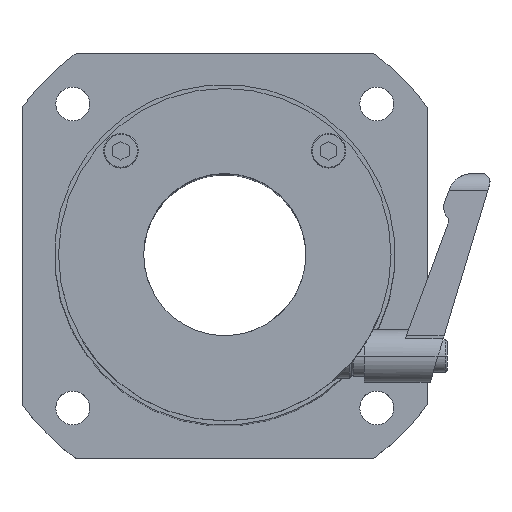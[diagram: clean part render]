
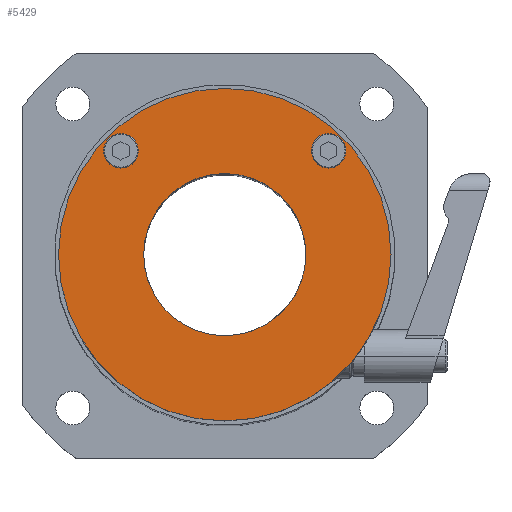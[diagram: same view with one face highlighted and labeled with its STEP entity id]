
A CAD part, top view. The second image highlights one B-rep face of the part: STEP entity #5429.
In plain terms, the highlighted planar face has unit normal (0, 0, 1).
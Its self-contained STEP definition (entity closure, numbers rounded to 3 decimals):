
#138 = EDGE_LOOP ( 'NONE', ( #7395, #1515 ) ) ;
#163 = DIRECTION ( 'NONE',  ( 0., 0., 1. ) ) ;
#179 = ORIENTED_EDGE ( 'NONE', *, *, #4579, .F. ) ;
#197 = DIRECTION ( 'NONE',  ( 0., 0., 1. ) ) ;
#212 = VERTEX_POINT ( 'NONE', #3309 ) ;
#280 = FACE_BOUND ( 'NONE', #6576, .T. ) ;
#342 = CARTESIAN_POINT ( 'NONE',  ( -25.378, 22.549, 92. ) ) ;
#525 = ORIENTED_EDGE ( 'NONE', *, *, #7167, .F. ) ;
#856 = CARTESIAN_POINT ( 'NONE',  ( 25.822, 22.549, 92. ) ) ;
#912 = AXIS2_PLACEMENT_3D ( 'NONE', #856, #163, #7689 ) ;
#935 = AXIS2_PLACEMENT_3D ( 'NONE', #3589, #2947, #1593 ) ;
#1058 = AXIS2_PLACEMENT_3D ( 'NONE', #5449, #2188, #7934 ) ;
#1280 = AXIS2_PLACEMENT_3D ( 'NONE', #3957, #197, #2715 ) ;
#1515 = ORIENTED_EDGE ( 'NONE', *, *, #3869, .T. ) ;
#1593 = DIRECTION ( 'NONE',  ( 1., 0., 0. ) ) ;
#1622 = DIRECTION ( 'NONE',  ( 1., 0., 0. ) ) ;
#1643 = ORIENTED_EDGE ( 'NONE', *, *, #4809, .F. ) ;
#1668 = ORIENTED_EDGE ( 'NONE', *, *, #6771, .F. ) ;
#1945 = VERTEX_POINT ( 'NONE', #3976 ) ;
#2089 = VERTEX_POINT ( 'NONE', #2518 ) ;
#2188 = DIRECTION ( 'NONE',  ( 0., 0., 1. ) ) ;
#2518 = CARTESIAN_POINT ( 'NONE',  ( 21.572, 22.549, 92. ) ) ;
#2621 = PLANE ( 'NONE',  #3260 ) ;
#2715 = DIRECTION ( 'NONE',  ( 1., 0., 0. ) ) ;
#2788 = FACE_OUTER_BOUND ( 'NONE', #138, .T. ) ;
#2833 = VERTEX_POINT ( 'NONE', #2929 ) ;
#2850 = DIRECTION ( 'NONE',  ( 0., 0., 1. ) ) ;
#2875 = CIRCLE ( 'NONE', #4037, 41. ) ;
#2929 = CARTESIAN_POINT ( 'NONE',  ( -40.778, -3.051, 92. ) ) ;
#2947 = DIRECTION ( 'NONE',  ( 0., 0., 1. ) ) ;
#3003 = CARTESIAN_POINT ( 'NONE',  ( 30.072, 22.549, 92. ) ) ;
#3260 = AXIS2_PLACEMENT_3D ( 'NONE', #7053, #3916, #3997 ) ;
#3309 = CARTESIAN_POINT ( 'NONE',  ( -19.778, -3.051, 92. ) ) ;
#3589 = CARTESIAN_POINT ( 'NONE',  ( 0.222, -3.051, 92. ) ) ;
#3649 = CIRCLE ( 'NONE', #912, 4.25 ) ;
#3769 = AXIS2_PLACEMENT_3D ( 'NONE', #6521, #7207, #1622 ) ;
#3836 = CIRCLE ( 'NONE', #7063, 20. ) ;
#3846 = FACE_BOUND ( 'NONE', #5792, .T. ) ;
#3869 = EDGE_CURVE ( 'NONE', #4290, #2833, #6000, .T. ) ;
#3916 = DIRECTION ( 'NONE',  ( 0., 0., 1. ) ) ;
#3957 = CARTESIAN_POINT ( 'NONE',  ( -25.378, 22.549, 92. ) ) ;
#3976 = CARTESIAN_POINT ( 'NONE',  ( -29.628, 22.549, 92. ) ) ;
#3997 = DIRECTION ( 'NONE',  ( 1., 0., 0. ) ) ;
#4037 = AXIS2_PLACEMENT_3D ( 'NONE', #5030, #4293, #6108 ) ;
#4192 = EDGE_LOOP ( 'NONE', ( #179, #1643 ) ) ;
#4208 = CARTESIAN_POINT ( 'NONE',  ( 20.222, -3.051, 92. ) ) ;
#4290 = VERTEX_POINT ( 'NONE', #6517 ) ;
#4293 = DIRECTION ( 'NONE',  ( 0., 0., 1. ) ) ;
#4579 = EDGE_CURVE ( 'NONE', #212, #5582, #4586, .T. ) ;
#4586 = CIRCLE ( 'NONE', #1058, 20. ) ;
#4798 = CIRCLE ( 'NONE', #1280, 4.25 ) ;
#4809 = EDGE_CURVE ( 'NONE', #5582, #212, #3836, .T. ) ;
#4956 = VERTEX_POINT ( 'NONE', #3003 ) ;
#5026 = CARTESIAN_POINT ( 'NONE',  ( -21.128, 22.549, 92. ) ) ;
#5030 = CARTESIAN_POINT ( 'NONE',  ( 0.222, -3.051, 92. ) ) ;
#5429 = ADVANCED_FACE ( 'NONE', ( #3846, #280, #2788, #7643 ), #2621, .T. ) ;
#5449 = CARTESIAN_POINT ( 'NONE',  ( 0.222, -3.051, 92. ) ) ;
#5493 = EDGE_CURVE ( 'NONE', #4956, #2089, #3649, .T. ) ;
#5582 = VERTEX_POINT ( 'NONE', #4208 ) ;
#5643 = EDGE_CURVE ( 'NONE', #2833, #4290, #2875, .T. ) ;
#5733 = EDGE_CURVE ( 'NONE', #1945, #6134, #7033, .T. ) ;
#5749 = DIRECTION ( 'NONE',  ( 1., 0., 0. ) ) ;
#5792 = EDGE_LOOP ( 'NONE', ( #525, #7623 ) ) ;
#5924 = CARTESIAN_POINT ( 'NONE',  ( 0.222, -3.051, 92. ) ) ;
#6000 = CIRCLE ( 'NONE', #935, 41. ) ;
#6108 = DIRECTION ( 'NONE',  ( 1., 0., 0. ) ) ;
#6134 = VERTEX_POINT ( 'NONE', #5026 ) ;
#6517 = CARTESIAN_POINT ( 'NONE',  ( 41.222, -3.051, 92. ) ) ;
#6521 = CARTESIAN_POINT ( 'NONE',  ( 25.822, 22.549, 92. ) ) ;
#6576 = EDGE_LOOP ( 'NONE', ( #6633, #1668 ) ) ;
#6617 = CIRCLE ( 'NONE', #3769, 4.25 ) ;
#6633 = ORIENTED_EDGE ( 'NONE', *, *, #5733, .F. ) ;
#6771 = EDGE_CURVE ( 'NONE', #6134, #1945, #4798, .T. ) ;
#6906 = AXIS2_PLACEMENT_3D ( 'NONE', #342, #2850, #5749 ) ;
#7033 = CIRCLE ( 'NONE', #6906, 4.25 ) ;
#7053 = CARTESIAN_POINT ( 'NONE',  ( 0.222, -3.051, 92. ) ) ;
#7063 = AXIS2_PLACEMENT_3D ( 'NONE', #5924, #7149, #7710 ) ;
#7149 = DIRECTION ( 'NONE',  ( 0., 0., 1. ) ) ;
#7167 = EDGE_CURVE ( 'NONE', #2089, #4956, #6617, .T. ) ;
#7207 = DIRECTION ( 'NONE',  ( 0., 0., 1. ) ) ;
#7395 = ORIENTED_EDGE ( 'NONE', *, *, #5643, .T. ) ;
#7623 = ORIENTED_EDGE ( 'NONE', *, *, #5493, .F. ) ;
#7643 = FACE_BOUND ( 'NONE', #4192, .T. ) ;
#7689 = DIRECTION ( 'NONE',  ( 1., 0., 0. ) ) ;
#7710 = DIRECTION ( 'NONE',  ( 1., 0., 0. ) ) ;
#7934 = DIRECTION ( 'NONE',  ( 1., 0., 0. ) ) ;
